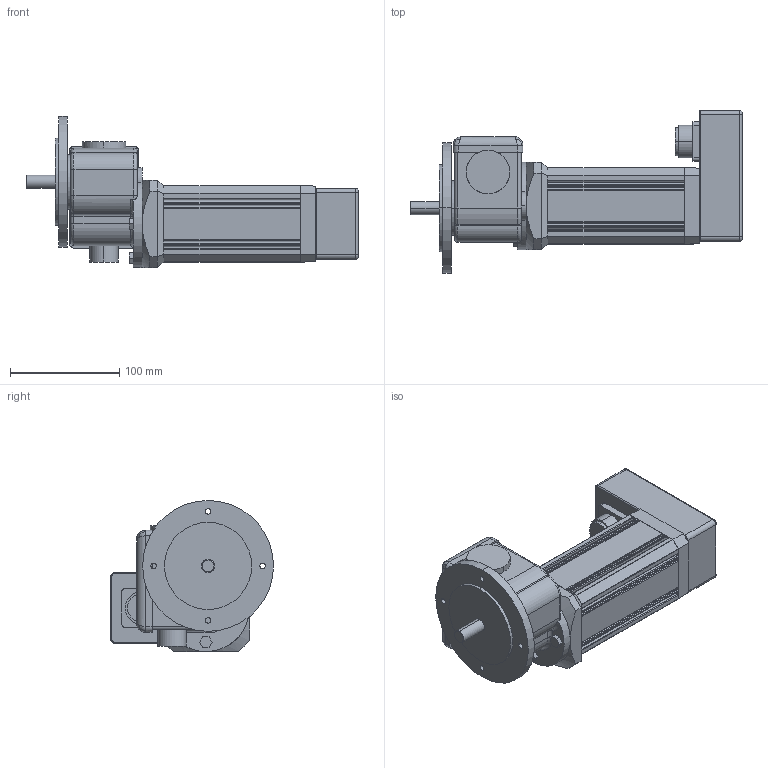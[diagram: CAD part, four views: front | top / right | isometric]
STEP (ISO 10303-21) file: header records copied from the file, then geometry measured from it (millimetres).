
FILE_DESCRIPTION(('OneSpaceDesigner STEP Export'),'2;1');
FILE_NAME('UECG313TH_GF23_Q.stp','2008-06-25T13:24:12',(''),(''),'OneSpace Designer STEP processor (Jan. 2003) for AP214(CD)(Solid Model)','OneSpace Designer 12.01D 09-Jul-2004 (C) CoCreate Software GmbH','');
FILE_SCHEMA(('AUTOMOTIVE_DESIGN_CC2 {1 2 10303 214 -1 1 5 1}'));
Length unit declared in the file: millimetre
Products named in the file (2): UECG313TH_GF23_Q
Assembly tree (1 placements, depth 2):
  UECG313TH_GF23_Q
    UECG313TH_GF23_Q
Bounding box: 304.5 x 149.5 x 138.5 mm (x, y, z)
Volume: 1731676.4 mm3; surface area: 150628.6 mm2
Topology: 1 solids, 1 shells, 335 faces, 846 edges, 524 vertices
Faces by surface type: plane 163, cylinder 133, torus 20, bspline 12, cone 6, sphere 1
Entity records: 11672 total; most frequent: CARTESIAN_POINT 3905, ORIENTED_EDGE 1690, DIRECTION 1504, EDGE_CURVE 845, VERTEX_POINT 524, AXIS2_PLACEMENT_3D 516, VECTOR 472, LINE 472
